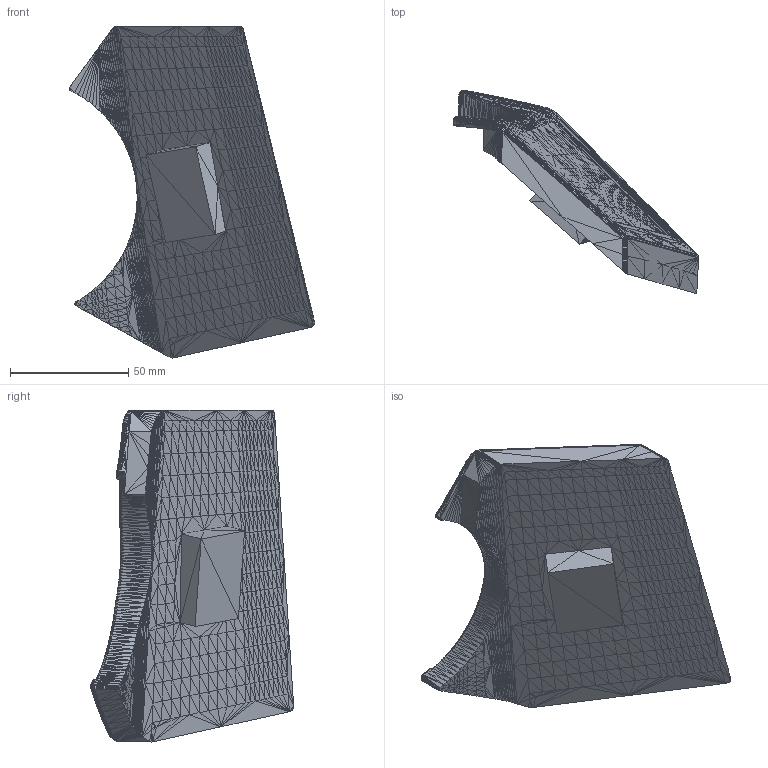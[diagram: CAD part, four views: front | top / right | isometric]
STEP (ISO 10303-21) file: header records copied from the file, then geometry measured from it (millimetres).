
FILE_DESCRIPTION((''),'2;1');
FILE_NAME('Vent Inner', '2025-03-27T07:36:11', (''), (''), 'ImageToStl.com STEP Converter','', '');
FILE_SCHEMA(('AUTOMOTIVE_DESIGN_CC2'));
Length unit declared in the file: metre
Products named in the file (1): product0
Bounding box: 103.62 x 85.9 x 140.3 mm (x, y, z)
Surface area: 33227.9 mm2 (no closed solid volume)
Topology: 0 solids, 29268 shells, 29268 faces, 87804 edges, 14634 vertices
Faces by surface type: plane 29268
Entity records: 702467 total; most frequent: DIRECTION 146342, ORIENTED_EDGE 87804, EDGE_CURVE 87804, LINE 87804, VECTOR 87804, AXIS2_PLACEMENT_3D 29269, STYLED_ITEM 29269, FACE_SURFACE 29268
